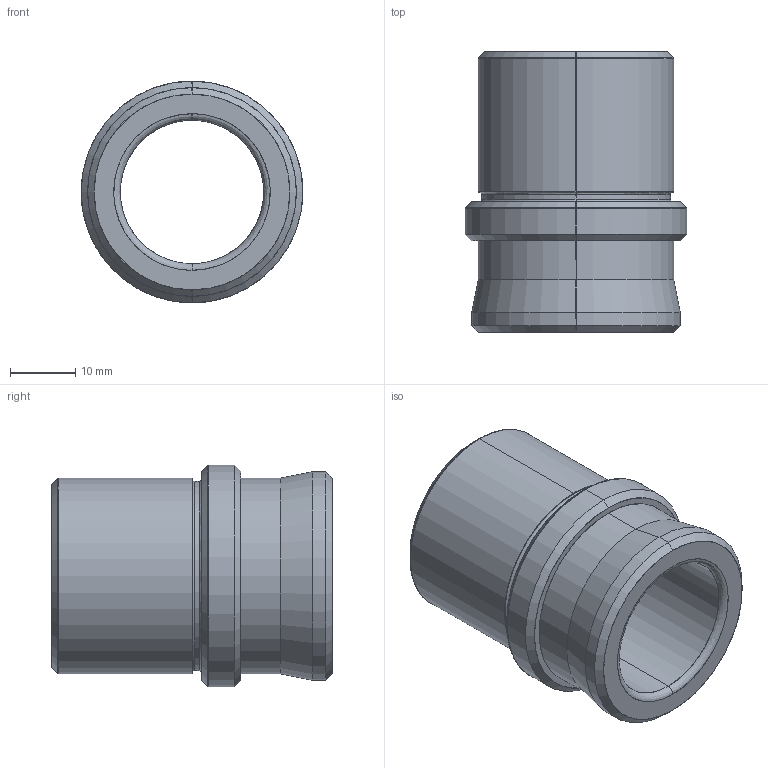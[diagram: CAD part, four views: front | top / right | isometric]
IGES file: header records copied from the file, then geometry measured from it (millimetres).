
Start section: SolidWorks IGES file using analytic representation for surfaces
Global section: file name: C:\Documents and Settings\kalite-mail\Desktop\HAZIR PARÇALAR\D27\D27-16\D27_16X43 2.IGS; native system: SolidWorks 2008; preprocessor: SolidWorks 2008; author: kalite-mail; date: 080709.145753; units: millimetre
Bounding box: 34 x 43 x 34 mm (x, y, z)
Surface area: 8049.4 mm2 (no closed solid volume)
Topology: 0 solids, 0 shells, 39 faces, 712 edges, 712 vertices
Faces by surface type: revolution 22, bspline 17
